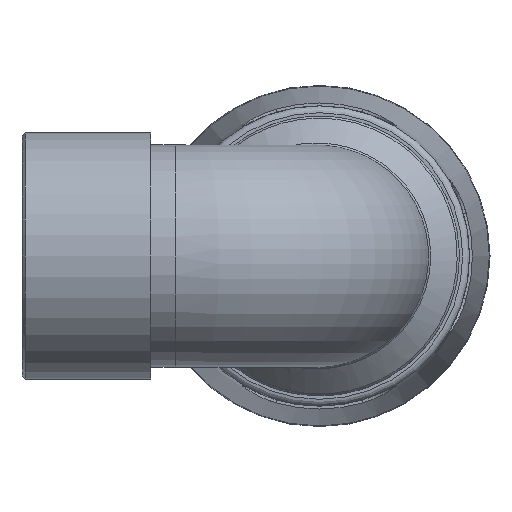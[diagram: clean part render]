
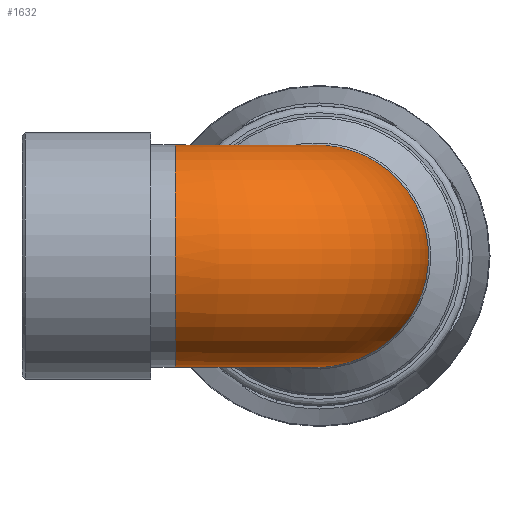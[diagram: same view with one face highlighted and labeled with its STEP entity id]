
A CAD part, left-side view. The second image highlights one B-rep face of the part: STEP entity #1632.
In plain terms, the highlighted toroidal (fillet/blend) face has major radius 29.56 mm and minor radius 22.787 mm.
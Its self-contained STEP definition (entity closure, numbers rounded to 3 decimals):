
#17=TOROIDAL_SURFACE('',#1782,29.56,22.787);
#186=B_SPLINE_CURVE_WITH_KNOTS('',3,(#2818,#2819,#2820,#2821,#2822,#2823,
#2824,#2825,#2826,#2827,#2828,#2829,#2830,#2831,#2832,#2833,#2834,#2835,
#2836),.UNSPECIFIED.,.T.,.F.,(4,1,1,1,1,1,1,1,1,1,1,1,1,1,1,1,4),(-3.142,
-2.917,-2.693,-2.244,-1.795,
-1.346,-1.047,-0.449,0.15,
0.449,0.898,1.346,1.795,2.244,
2.693,2.917,3.142),.UNSPECIFIED.);
#365=FACE_BOUND('',#518,.T.);
#395=FACE_OUTER_BOUND('',#517,.T.);
#517=EDGE_LOOP('',(#1186));
#518=EDGE_LOOP('',(#1187));
#664=CIRCLE('',#1777,22.787);
#757=VERTEX_POINT('',#2816);
#761=VERTEX_POINT('',#2847);
#921=EDGE_CURVE('',#757,#757,#186,.T.);
#925=EDGE_CURVE('',#761,#761,#664,.T.);
#1186=ORIENTED_EDGE('',*,*,#921,.F.);
#1187=ORIENTED_EDGE('',*,*,#925,.T.);
#1632=ADVANCED_FACE('',(#395,#365),#17,.T.);
#1777=AXIS2_PLACEMENT_3D('',#2848,#2030,#2031);
#1782=AXIS2_PLACEMENT_3D('',#2856,#2040,#2041);
#2030=DIRECTION('center_axis',(0.,-1.,0.));
#2031=DIRECTION('ref_axis',(-1.,0.,0.));
#2040=DIRECTION('center_axis',(0.,0.,1.));
#2041=DIRECTION('ref_axis',(1.,0.,0.));
#2816=CARTESIAN_POINT('',(23.416,26.71,0.));
#2818=CARTESIAN_POINT('Ctrl Pts',(23.417,26.712,0.));
#2819=CARTESIAN_POINT('Ctrl Pts',(23.417,26.712,1.742));
#2820=CARTESIAN_POINT('Ctrl Pts',(23.27,25.984,5.227));
#2821=CARTESIAN_POINT('Ctrl Pts',(22.945,22.57,11.556));
#2822=CARTESIAN_POINT('Ctrl Pts',(22.942,16.37,18.135));
#2823=CARTESIAN_POINT('Ctrl Pts',(23.034,6.692,22.824));
#2824=CARTESIAN_POINT('Ctrl Pts',(23.091,-2.865,23.072));
#2825=CARTESIAN_POINT('Ctrl Pts',(23.133,-12.841,19.5));
#2826=CARTESIAN_POINT('Ctrl Pts',(23.156,-21.356,10.769));
#2827=CARTESIAN_POINT('Ctrl Pts',(23.161,-23.208,-1.29));
#2828=CARTESIAN_POINT('Ctrl Pts',(23.153,-19.98,-11.382));
#2829=CARTESIAN_POINT('Ctrl Pts',(23.136,-13.88,-18.734));
#2830=CARTESIAN_POINT('Ctrl Pts',(23.098,-4.06,-23.113));
#2831=CARTESIAN_POINT('Ctrl Pts',(23.034,6.692,-22.82));
#2832=CARTESIAN_POINT('Ctrl Pts',(22.942,16.37,-18.138));
#2833=CARTESIAN_POINT('Ctrl Pts',(22.945,22.57,-11.555));
#2834=CARTESIAN_POINT('Ctrl Pts',(23.27,25.984,-5.227));
#2835=CARTESIAN_POINT('Ctrl Pts',(23.417,26.712,-1.742));
#2836=CARTESIAN_POINT('Ctrl Pts',(23.417,26.712,0.));
#2847=CARTESIAN_POINT('',(22.787,29.56,0.));
#2848=CARTESIAN_POINT('Origin',(0.,29.56,0.));
#2856=CARTESIAN_POINT('Origin',(29.56,29.56,0.));
